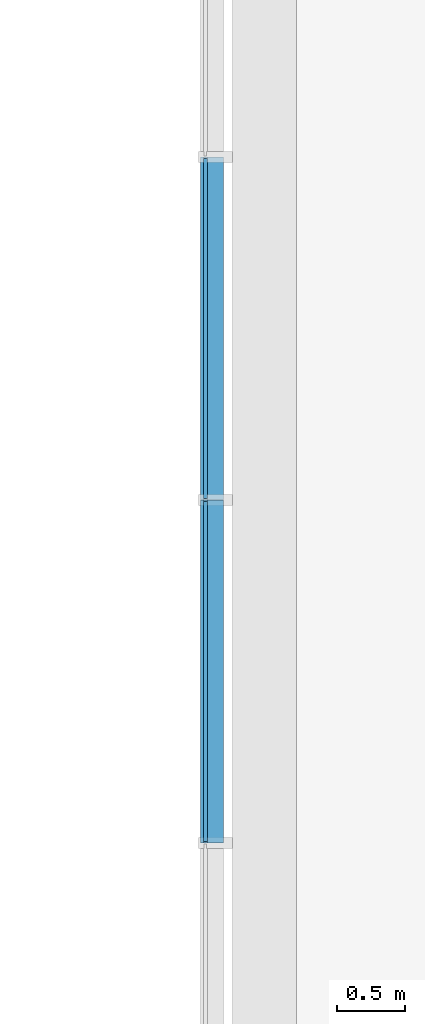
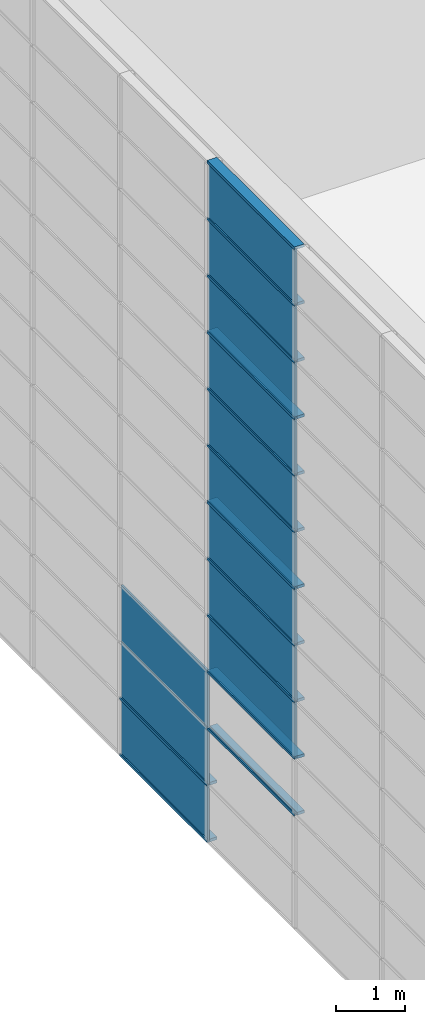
# One storey, part 34 of 105: 28 building element parts, 4 elements without a shape of their own.
"""IFC4 building model written with IfcOpenShell, lengths in millimetres."""

from ifc_helpers import new_model, entity, si_unit, converted_unit, derived_unit, direction, frame, origin_with_axes, place, context, subcontext, project, spatial, triangles, material, element, aggregate, save


model = new_model("IFC4")

# Units and contexts
model_context = context("Model", 3, precision=1e-05, world=origin_with_axes(), true_north=direction((0.0, 1.0)))
body_context = subcontext(model_context, "Body", "Model", "MODEL_VIEW")
ifc_project = project(units=[si_unit("LENGTHUNIT", "METRE", prefix="MILLI"), si_unit("AREAUNIT", "SQUARE_METRE"), si_unit("VOLUMEUNIT", "CUBIC_METRE"), converted_unit("PLANEANGLEUNIT", "DEGREE", entity("IfcLengthMeasure", 0.017453), si_unit("PLANEANGLEUNIT", "RADIAN"), dimensions=[0, 0, 0, 0, 0, 0, 0]), si_unit("SOLIDANGLEUNIT", "STERADIAN"), si_unit("MASSUNIT", "GRAM"), si_unit("TIMEUNIT", "SECOND"), si_unit("THERMODYNAMICTEMPERATUREUNIT", "DEGREE_CELSIUS"), si_unit("LUMINOUSINTENSITYUNIT", "LUMEN"), si_unit("POWERUNIT", "WATT"), derived_unit("THERMALTRANSMITTANCEUNIT", [(si_unit("POWERUNIT", "WATT"), 1), (si_unit("THERMODYNAMICTEMPERATUREUNIT", "KELVIN"), -1), (si_unit("AREAUNIT", "SQUARE_METRE"), -1)])], contexts=[model_context])

# Site, building, storey
site_placement = place(None, origin_with_axes())
site = spatial("IfcSite", under=ifc_project, at=site_placement, Name="Default Site", CompositionType="ELEMENT")
building_placement = place(site_placement, origin_with_axes())
building = spatial("IfcBuilding", under=site, at=building_placement, Name="Default Building", CompositionType="ELEMENT")
storey_placement = place(building_placement, origin_with_axes())
storey = spatial("IfcBuildingStorey", under=building, at=storey_placement, Name="OG - Story", CompositionType="ELEMENT", Elevation=0.0)

# Curtain wall, building element parts
curtain_wall_1_placement = place(storey_placement, origin_with_axes())
curtain_wall_1 = element("IfcCurtainWall", 1, at=curtain_wall_1_placement, inside=storey, Name="Fassade-003", PredefinedType="NOTDEFINED")
ifc_material_1 = material(Name="Normalglas")
building_element_part_1_placement = place(curtain_wall_1_placement, frame((31551.391327, -51326.104944, 0.0), z_axis=(0.0, 0.0, 1.0), x_axis=(1.0, 0.0, 0.0)))
building_element_part_1 = element("IfcBuildingElementPart", 2, at=building_element_part_1_placement, material=ifc_material_1, Name="Normalglas", PredefinedType="NOTDEFINED", context=body_context, shape_type="Tessellation", body=[
    triangles([(15.0, 39147.895, 995.0), (-14.999, 39147.895, 995.0), (-14.999, 36641.579, 995.0), (15.0, 36641.579, 995.0), (15.0, 39147.895, 5.0), (-14.999, 39147.895, 5.0), (-14.999, 36641.579, 5.0), (15.0, 36641.579, 5.0)], [[1, 2, 3], [1, 3, 4], [5, 6, 2], [5, 2, 1], [2, 6, 7], [2, 7, 3], [4, 3, 7], [4, 7, 8], [1, 4, 8], [1, 8, 5], [8, 7, 6], [8, 6, 5]], closed=False),
])
building_element_part_2_placement = place(curtain_wall_1_placement, frame((31551.391327, -51326.104944, 0.0), z_axis=(0.0, 0.0, 1.0), x_axis=(1.0, 0.0, 0.0)))
building_element_part_2 = element("IfcBuildingElementPart", 3, at=building_element_part_2_placement, material=ifc_material_1, Name="Normalglas", PredefinedType="NOTDEFINED", context=body_context, shape_type="Tessellation", body=[
    triangles([(15.0, 39147.895, 1995.0), (-14.999, 39147.895, 1995.0), (-14.999, 36641.579, 1995.0), (15.0, 36641.579, 1995.0), (15.0, 39147.895, 1005.0), (-14.999, 39147.895, 1005.0), (-14.999, 36641.579, 1005.0), (15.0, 36641.579, 1005.0)], [[1, 2, 3], [1, 3, 4], [5, 6, 2], [5, 2, 1], [2, 6, 7], [2, 7, 3], [4, 3, 7], [4, 7, 8], [1, 4, 8], [1, 8, 5], [8, 7, 6], [8, 6, 5]], closed=False),
])
building_element_part_3_placement = place(curtain_wall_1_placement, frame((31551.391327, -51326.104944, 0.0), z_axis=(0.0, 0.0, 1.0), x_axis=(1.0, 0.0, 0.0)))
building_element_part_3 = element("IfcBuildingElementPart", 4, at=building_element_part_3_placement, material=ifc_material_1, Name="Normalglas", PredefinedType="NOTDEFINED", context=body_context, shape_type="Tessellation", body=[
    triangles([(15.0, 39147.895, 2995.0), (-14.999, 39147.895, 2995.0), (-14.999, 36641.579, 2995.0), (15.0, 36641.579, 2995.0), (15.0, 39147.895, 2005.0), (-14.999, 39147.895, 2005.0), (-14.999, 36641.579, 2005.0), (15.0, 36641.579, 2005.0)], [[1, 2, 3], [1, 3, 4], [5, 6, 2], [5, 2, 1], [2, 6, 7], [2, 7, 3], [4, 3, 7], [4, 7, 8], [1, 4, 8], [1, 8, 5], [8, 7, 6], [8, 6, 5]], closed=False),
])
ifc_material_2 = material(Name="Blech")
building_element_part_4_placement = place(curtain_wall_1_placement, frame((31551.391327, -51326.104944, 0.0), z_axis=(0.0, 0.0, 1.0), x_axis=(1.0, 0.0, 0.0)))
building_element_part_4 = element("IfcBuildingElementPart", 5, at=building_element_part_4_placement, material=ifc_material_2, Name="Blech", PredefinedType="NOTDEFINED", context=body_context, shape_type="Tessellation", body=[
    triangles([(15.0, 39157.895, 25.0), (133.0, 39157.895, 25.0), (15.0, 39157.895, 5.0), (133.0, 39157.895, -24.999), (-14.999, 39157.895, 5.0), (-34.999, 39157.895, -24.999), (-34.999, 39157.895, 25.0), (-14.999, 39157.895, 25.0), (15.0, 36631.579, 5.0), (15.0, 36631.579, 25.0), (133.0, 36631.579, 25.0), (133.0, 36631.579, -24.999), (-34.999, 36631.579, -24.999), (-34.999, 36631.579, 25.0), (-14.999, 36631.579, 25.0), (-14.999, 36631.579, 5.0)], [[1, 2, 3], [3, 2, 4], [3, 4, 5], [5, 4, 6], [5, 6, 7], [5, 7, 8], [3, 9, 10], [3, 10, 1], [10, 11, 2], [10, 2, 1], [11, 12, 4], [11, 4, 2], [12, 13, 6], [12, 6, 4], [13, 14, 7], [13, 7, 6], [8, 7, 14], [8, 14, 15], [15, 16, 5], [15, 5, 8], [5, 16, 9], [5, 9, 3], [16, 9, 12], [16, 12, 13], [16, 13, 14], [16, 14, 15], [11, 12, 9], [11, 9, 10]], closed=False),
])
building_element_part_5_placement = place(curtain_wall_1_placement, frame((31551.391327, -51326.104944, 0.0), z_axis=(0.0, 0.0, 1.0), x_axis=(1.0, 0.0, 0.0)))
building_element_part_5 = element("IfcBuildingElementPart", 6, at=building_element_part_5_placement, material=ifc_material_2, Name="Blech", PredefinedType="NOTDEFINED", context=body_context, shape_type="Tessellation", body=[
    triangles([(-14.999, 39157.895, 1025.0), (-34.999, 39157.895, 1025.0), (-14.999, 39157.895, 1005.0), (-14.999, 39157.895, 995.0), (15.0, 39157.895, 1005.0), (133.0, 39157.895, 1025.0), (15.0, 39157.895, 1025.0), (-34.999, 39157.895, 975.0), (-14.999, 39157.895, 975.0), (15.0, 39157.895, 995.0), (15.0, 39157.895, 975.0), (133.0, 39157.895, 975.0), (15.0, 36631.579, 995.0), (-14.999, 36631.579, 995.0), (-14.999, 36631.579, 975.0), (-34.999, 36631.579, 975.0), (-34.999, 36631.579, 1025.0), (-14.999, 36631.579, 1025.0), (-14.999, 36631.579, 1005.0), (15.0, 36631.579, 1005.0), (15.0, 36631.579, 1025.0), (133.0, 36631.579, 1025.0), (133.0, 36631.579, 975.0), (15.0, 36631.579, 975.0)], [[1, 2, 3], [3, 2, 4], [3, 4, 5], [5, 4, 6], [5, 6, 7], [8, 9, 4], [8, 4, 2], [6, 4, 10], [6, 10, 11], [6, 11, 12], [10, 13, 14], [10, 14, 4], [4, 14, 15], [4, 15, 9], [15, 16, 8], [15, 8, 9], [8, 16, 17], [8, 17, 2], [18, 1, 2], [18, 2, 17], [1, 18, 19], [1, 19, 3], [5, 3, 19], [5, 19, 20], [7, 5, 20], [7, 20, 21], [7, 21, 22], [7, 22, 6], [6, 22, 23], [6, 23, 12], [11, 12, 23], [11, 23, 24], [11, 24, 13], [11, 13, 10], [21, 22, 20], [20, 22, 13], [20, 13, 19], [19, 13, 14], [19, 14, 17], [17, 14, 15], [17, 15, 16], [23, 24, 13], [23, 13, 22], [19, 17, 18]], closed=False),
])
building_element_part_6_placement = place(curtain_wall_1_placement, frame((31551.391327, -51326.104944, 0.0), z_axis=(0.0, 0.0, 1.0), x_axis=(1.0, 0.0, 0.0)))
building_element_part_6 = element("IfcBuildingElementPart", 7, at=building_element_part_6_placement, material=ifc_material_2, Name="Blech", PredefinedType="NOTDEFINED", context=body_context, shape_type="Tessellation", body=[
    triangles([(-14.999, 36631.579, 2025.0), (-34.999, 36631.579, 2025.0), (-14.999, 36631.579, 2005.0), (-14.999, 36631.579, 1995.0), (15.0, 36631.579, 2005.0), (133.0, 36631.579, 2025.0), (15.0, 36631.579, 2025.0), (-34.999, 36631.579, 1975.0), (-14.999, 36631.579, 1975.0), (15.0, 36631.579, 1995.0), (15.0, 36631.579, 1975.0), (133.0, 36631.579, 1975.0), (15.0, 34105.263, 1995.0), (-14.999, 34105.263, 1995.0), (-14.999, 34105.263, 1975.0), (-34.999, 34105.263, 1975.0), (-34.999, 34105.263, 2025.0), (-14.999, 34105.263, 2025.0), (-14.999, 34105.263, 2005.0), (15.0, 34105.263, 2005.0), (15.0, 34105.263, 2025.0), (133.0, 34105.263, 2025.0), (133.0, 34105.263, 1975.0), (15.0, 34105.263, 1975.0)], [[1, 2, 3], [3, 2, 4], [3, 4, 5], [5, 4, 6], [5, 6, 7], [8, 9, 4], [8, 4, 2], [6, 4, 10], [6, 10, 11], [6, 11, 12], [10, 13, 14], [10, 14, 4], [4, 14, 15], [4, 15, 9], [15, 16, 8], [15, 8, 9], [8, 16, 17], [8, 17, 2], [18, 1, 2], [18, 2, 17], [1, 18, 19], [1, 19, 3], [5, 3, 19], [5, 19, 20], [7, 5, 20], [7, 20, 21], [7, 21, 22], [7, 22, 6], [6, 22, 23], [6, 23, 12], [11, 12, 23], [11, 23, 24], [11, 24, 13], [11, 13, 10], [21, 22, 20], [20, 22, 13], [20, 13, 19], [19, 13, 14], [19, 14, 17], [17, 14, 15], [17, 15, 16], [23, 24, 13], [23, 13, 22], [19, 17, 18]], closed=False),
])
building_element_part_7_placement = place(curtain_wall_1_placement, frame((31551.391327, -51326.104944, 0.0), z_axis=(0.0, 0.0, 1.0), x_axis=(1.0, 0.0, 0.0)))
building_element_part_7 = element("IfcBuildingElementPart", 8, at=building_element_part_7_placement, material=ifc_material_2, Name="Blech", PredefinedType="NOTDEFINED", context=body_context, shape_type="Tessellation", body=[
    triangles([(-14.999, 36631.579, 2995.0), (15.0, 36631.579, 2995.0), (133.0, 36631.579, 3025.0), (-34.999, 36631.579, 3025.0), (-34.999, 36631.579, 2975.0), (-14.999, 36631.579, 2975.0), (15.0, 36631.579, 2975.0), (133.0, 36631.579, 2975.0), (15.0, 34105.263, 2995.0), (-14.999, 34105.263, 2995.0), (-14.999, 34105.263, 2975.0), (-34.999, 34105.263, 2975.0), (-34.999, 34105.263, 3025.0), (133.0, 34105.263, 3025.0), (133.0, 34105.263, 2975.0), (15.0, 34105.263, 2975.0)], [[1, 2, 3], [1, 3, 4], [1, 4, 5], [1, 5, 6], [7, 8, 3], [7, 3, 2], [1, 2, 9], [1, 9, 10], [11, 6, 1], [11, 1, 10], [6, 11, 12], [6, 12, 5], [13, 4, 5], [13, 5, 12], [14, 3, 4], [14, 4, 13], [15, 8, 3], [15, 3, 14], [16, 7, 8], [16, 8, 15], [2, 7, 16], [2, 16, 9], [10, 9, 14], [10, 14, 13], [10, 13, 12], [10, 12, 11], [16, 15, 14], [16, 14, 9]], closed=False),
])
aggregate(curtain_wall_1, [building_element_part_1, building_element_part_2, building_element_part_3, building_element_part_4, building_element_part_5, building_element_part_6, building_element_part_7])

curtain_wall_2_placement = place(storey_placement, origin_with_axes())
curtain_wall_2 = element("IfcCurtainWall", 9, at=curtain_wall_2_placement, inside=storey, Name="Fassade-003", PredefinedType="NOTDEFINED")
building_element_part_8_placement = place(curtain_wall_2_placement, frame((31551.391327, -51326.104944, 3000.0), z_axis=(0.0, 0.0, 1.0), x_axis=(1.0, 0.0, 0.0)))
building_element_part_8 = element("IfcBuildingElementPart", 10, at=building_element_part_8_placement, material=ifc_material_1, Name="Normalglas", PredefinedType="NOTDEFINED", context=body_context, shape_type="Tessellation", body=[
    triangles([(15.0, 36621.579, 995.0), (-14.999, 36621.579, 995.0), (-14.999, 34115.263, 995.0), (15.0, 34115.263, 995.0), (15.0, 36621.579, 5.0), (-14.999, 36621.579, 5.0), (-14.999, 34115.263, 5.0), (15.0, 34115.263, 5.0)], [[1, 2, 3], [1, 3, 4], [5, 6, 2], [5, 2, 1], [2, 6, 7], [2, 7, 3], [4, 3, 7], [4, 7, 8], [1, 4, 8], [1, 8, 5], [8, 7, 6], [8, 6, 5]], closed=False),
])
building_element_part_9_placement = place(curtain_wall_2_placement, frame((31551.391327, -51326.104944, 3000.0), z_axis=(0.0, 0.0, 1.0), x_axis=(1.0, 0.0, 0.0)))
building_element_part_9 = element("IfcBuildingElementPart", 11, at=building_element_part_9_placement, material=ifc_material_1, Name="Normalglas", PredefinedType="NOTDEFINED", context=body_context, shape_type="Tessellation", body=[
    triangles([(15.0, 36621.579, 1995.0), (-14.999, 36621.579, 1995.0), (-14.999, 34115.263, 1995.0), (15.0, 34115.263, 1995.0), (15.0, 36621.579, 1005.0), (-14.999, 36621.579, 1005.0), (-14.999, 34115.263, 1005.0), (15.0, 34115.263, 1005.0)], [[1, 2, 3], [1, 3, 4], [5, 6, 2], [5, 2, 1], [2, 6, 7], [2, 7, 3], [4, 3, 7], [4, 7, 8], [1, 4, 8], [1, 8, 5], [8, 7, 6], [8, 6, 5]], closed=False),
])
building_element_part_10_placement = place(curtain_wall_2_placement, frame((31551.391327, -51326.104944, 3000.0), z_axis=(0.0, 0.0, 1.0), x_axis=(1.0, 0.0, 0.0)))
building_element_part_10 = element("IfcBuildingElementPart", 12, at=building_element_part_10_placement, material=ifc_material_1, Name="Normalglas", PredefinedType="NOTDEFINED", context=body_context, shape_type="Tessellation", body=[
    triangles([(15.0, 36621.579, 2995.0), (-14.999, 36621.579, 2995.0), (-14.999, 34115.263, 2995.0), (15.0, 34115.263, 2995.0), (15.0, 36621.579, 2005.0), (-14.999, 36621.579, 2005.0), (-14.999, 34115.263, 2005.0), (15.0, 34115.263, 2005.0)], [[1, 2, 3], [1, 3, 4], [5, 6, 2], [5, 2, 1], [2, 6, 7], [2, 7, 3], [4, 3, 7], [4, 7, 8], [1, 4, 8], [1, 8, 5], [8, 7, 6], [8, 6, 5]], closed=False),
])
building_element_part_11_placement = place(curtain_wall_2_placement, frame((31551.391327, -51326.104944, 3000.0), z_axis=(0.0, 0.0, 1.0), x_axis=(1.0, 0.0, 0.0)))
building_element_part_11 = element("IfcBuildingElementPart", 13, at=building_element_part_11_placement, material=ifc_material_2, Name="Blech", PredefinedType="NOTDEFINED", context=body_context, shape_type="Tessellation", body=[
    triangles([(15.0, 36631.579, 25.0), (133.0, 36631.579, 25.0), (15.0, 36631.579, 5.0), (133.0, 36631.579, -24.999), (-14.999, 36631.579, 5.0), (-34.999, 36631.579, -24.999), (-34.999, 36631.579, 25.0), (-14.999, 36631.579, 25.0), (15.0, 34105.263, 5.0), (15.0, 34105.263, 25.0), (133.0, 34105.263, 25.0), (133.0, 34105.263, -24.999), (-34.999, 34105.263, -24.999), (-34.999, 34105.263, 25.0), (-14.999, 34105.263, 25.0), (-14.999, 34105.263, 5.0)], [[1, 2, 3], [3, 2, 4], [3, 4, 5], [5, 4, 6], [5, 6, 7], [5, 7, 8], [3, 9, 10], [3, 10, 1], [10, 11, 2], [10, 2, 1], [11, 12, 4], [11, 4, 2], [12, 13, 6], [12, 6, 4], [13, 14, 7], [13, 7, 6], [8, 7, 14], [8, 14, 15], [15, 16, 5], [15, 5, 8], [5, 16, 9], [5, 9, 3], [16, 9, 12], [16, 12, 13], [16, 13, 14], [16, 14, 15], [11, 12, 9], [11, 9, 10]], closed=False),
])
building_element_part_12_placement = place(curtain_wall_2_placement, frame((31551.391327, -51326.104944, 3000.0), z_axis=(0.0, 0.0, 1.0), x_axis=(1.0, 0.0, 0.0)))
building_element_part_12 = element("IfcBuildingElementPart", 14, at=building_element_part_12_placement, material=ifc_material_2, Name="Blech", PredefinedType="NOTDEFINED", context=body_context, shape_type="Tessellation", body=[
    triangles([(-14.999, 36631.579, 1025.0), (-34.999, 36631.579, 1025.0), (-14.999, 36631.579, 1005.0), (-14.999, 36631.579, 995.0), (15.0, 36631.579, 1005.0), (133.0, 36631.579, 1025.0), (15.0, 36631.579, 1025.0), (-34.999, 36631.579, 975.0), (-14.999, 36631.579, 975.0), (15.0, 36631.579, 995.0), (15.0, 36631.579, 975.0), (133.0, 36631.579, 975.0), (15.0, 34105.263, 995.0), (-14.999, 34105.263, 995.0), (-14.999, 34105.263, 975.0), (-34.999, 34105.263, 975.0), (-34.999, 34105.263, 1025.0), (-14.999, 34105.263, 1025.0), (-14.999, 34105.263, 1005.0), (15.0, 34105.263, 1005.0), (15.0, 34105.263, 1025.0), (133.0, 34105.263, 1025.0), (133.0, 34105.263, 975.0), (15.0, 34105.263, 975.0)], [[1, 2, 3], [3, 2, 4], [3, 4, 5], [5, 4, 6], [5, 6, 7], [8, 9, 4], [8, 4, 2], [6, 4, 10], [6, 10, 11], [6, 11, 12], [10, 13, 14], [10, 14, 4], [4, 14, 15], [4, 15, 9], [15, 16, 8], [15, 8, 9], [8, 16, 17], [8, 17, 2], [18, 1, 2], [18, 2, 17], [1, 18, 19], [1, 19, 3], [5, 3, 19], [5, 19, 20], [7, 5, 20], [7, 20, 21], [7, 21, 22], [7, 22, 6], [6, 22, 23], [6, 23, 12], [11, 12, 23], [11, 23, 24], [11, 24, 13], [11, 13, 10], [21, 22, 20], [20, 22, 13], [20, 13, 19], [19, 13, 14], [19, 14, 17], [17, 14, 15], [17, 15, 16], [23, 24, 13], [23, 13, 22], [19, 17, 18]], closed=False),
])
building_element_part_13_placement = place(curtain_wall_2_placement, frame((31551.391327, -51326.104944, 3000.0), z_axis=(0.0, 0.0, 1.0), x_axis=(1.0, 0.0, 0.0)))
building_element_part_13 = element("IfcBuildingElementPart", 15, at=building_element_part_13_placement, material=ifc_material_2, Name="Blech", PredefinedType="NOTDEFINED", context=body_context, shape_type="Tessellation", body=[
    triangles([(-14.999, 36631.579, 2025.0), (-34.999, 36631.579, 2025.0), (-14.999, 36631.579, 2005.0), (-14.999, 36631.579, 1995.0), (15.0, 36631.579, 2005.0), (133.0, 36631.579, 2025.0), (15.0, 36631.579, 2025.0), (-34.999, 36631.579, 1975.0), (-14.999, 36631.579, 1975.0), (15.0, 36631.579, 1995.0), (15.0, 36631.579, 1975.0), (133.0, 36631.579, 1975.0), (15.0, 34105.263, 1995.0), (-14.999, 34105.263, 1995.0), (-14.999, 34105.263, 1975.0), (-34.999, 34105.263, 1975.0), (-34.999, 34105.263, 2025.0), (-14.999, 34105.263, 2025.0), (-14.999, 34105.263, 2005.0), (15.0, 34105.263, 2005.0), (15.0, 34105.263, 2025.0), (133.0, 34105.263, 2025.0), (133.0, 34105.263, 1975.0), (15.0, 34105.263, 1975.0)], [[1, 2, 3], [3, 2, 4], [3, 4, 5], [5, 4, 6], [5, 6, 7], [8, 9, 4], [8, 4, 2], [6, 4, 10], [6, 10, 11], [6, 11, 12], [10, 13, 14], [10, 14, 4], [4, 14, 15], [4, 15, 9], [15, 16, 8], [15, 8, 9], [8, 16, 17], [8, 17, 2], [18, 1, 2], [18, 2, 17], [1, 18, 19], [1, 19, 3], [5, 3, 19], [5, 19, 20], [7, 5, 20], [7, 20, 21], [7, 21, 22], [7, 22, 6], [6, 22, 23], [6, 23, 12], [11, 12, 23], [11, 23, 24], [11, 24, 13], [11, 13, 10], [21, 22, 20], [20, 22, 13], [20, 13, 19], [19, 13, 14], [19, 14, 17], [17, 14, 15], [17, 15, 16], [23, 24, 13], [23, 13, 22], [19, 17, 18]], closed=False),
])
building_element_part_14_placement = place(curtain_wall_2_placement, frame((31551.391327, -51326.104944, 3000.0), z_axis=(0.0, 0.0, 1.0), x_axis=(1.0, 0.0, 0.0)))
building_element_part_14 = element("IfcBuildingElementPart", 16, at=building_element_part_14_placement, material=ifc_material_2, Name="Blech", PredefinedType="NOTDEFINED", context=body_context, shape_type="Tessellation", body=[
    triangles([(-14.999, 36631.579, 2995.0), (15.0, 36631.579, 2995.0), (133.0, 36631.579, 3025.0), (-34.999, 36631.579, 3025.0), (-34.999, 36631.579, 2975.0), (-14.999, 36631.579, 2975.0), (15.0, 36631.579, 2975.0), (133.0, 36631.579, 2975.0), (15.0, 34105.263, 2995.0), (-14.999, 34105.263, 2995.0), (-14.999, 34105.263, 2975.0), (-34.999, 34105.263, 2975.0), (-34.999, 34105.263, 3025.0), (133.0, 34105.263, 3025.0), (133.0, 34105.263, 2975.0), (15.0, 34105.263, 2975.0)], [[1, 2, 3], [1, 3, 4], [1, 4, 5], [1, 5, 6], [7, 8, 3], [7, 3, 2], [1, 2, 9], [1, 9, 10], [11, 6, 1], [11, 1, 10], [6, 11, 12], [6, 12, 5], [13, 4, 5], [13, 5, 12], [14, 3, 4], [14, 4, 13], [15, 8, 3], [15, 3, 14], [16, 7, 8], [16, 8, 15], [2, 7, 16], [2, 16, 9], [10, 9, 14], [10, 14, 13], [10, 13, 12], [10, 12, 11], [16, 15, 14], [16, 14, 9]], closed=False),
])
aggregate(curtain_wall_2, [building_element_part_8, building_element_part_9, building_element_part_10, building_element_part_11, building_element_part_12, building_element_part_13, building_element_part_14])

curtain_wall_3_placement = place(storey_placement, origin_with_axes())
curtain_wall_3 = element("IfcCurtainWall", 17, at=curtain_wall_3_placement, inside=storey, Name="Fassade-003", PredefinedType="NOTDEFINED")
building_element_part_15_placement = place(curtain_wall_3_placement, frame((31551.391327, -51326.104944, 6000.0), z_axis=(0.0, 0.0, 1.0), x_axis=(1.0, 0.0, 0.0)))
building_element_part_15 = element("IfcBuildingElementPart", 18, at=building_element_part_15_placement, material=ifc_material_1, Name="Normalglas", PredefinedType="NOTDEFINED", context=body_context, shape_type="Tessellation", body=[
    triangles([(15.0, 36621.579, 995.0), (-14.999, 36621.579, 995.0), (-14.999, 34115.263, 995.0), (15.0, 34115.263, 995.0), (15.0, 36621.579, 5.0), (-14.999, 36621.579, 5.0), (-14.999, 34115.263, 5.0), (15.0, 34115.263, 5.0)], [[1, 2, 3], [1, 3, 4], [5, 6, 2], [5, 2, 1], [2, 6, 7], [2, 7, 3], [4, 3, 7], [4, 7, 8], [1, 4, 8], [1, 8, 5], [8, 7, 6], [8, 6, 5]], closed=False),
])
building_element_part_16_placement = place(curtain_wall_3_placement, frame((31551.391327, -51326.104944, 6000.0), z_axis=(0.0, 0.0, 1.0), x_axis=(1.0, 0.0, 0.0)))
building_element_part_16 = element("IfcBuildingElementPart", 19, at=building_element_part_16_placement, material=ifc_material_1, Name="Normalglas", PredefinedType="NOTDEFINED", context=body_context, shape_type="Tessellation", body=[
    triangles([(15.0, 36621.579, 1995.0), (-14.999, 36621.579, 1995.0), (-14.999, 34115.263, 1995.0), (15.0, 34115.263, 1995.0), (15.0, 36621.579, 1005.0), (-14.999, 36621.579, 1005.0), (-14.999, 34115.263, 1005.0), (15.0, 34115.263, 1005.0)], [[1, 2, 3], [1, 3, 4], [5, 6, 2], [5, 2, 1], [2, 6, 7], [2, 7, 3], [4, 3, 7], [4, 7, 8], [1, 4, 8], [1, 8, 5], [8, 7, 6], [8, 6, 5]], closed=False),
])
building_element_part_17_placement = place(curtain_wall_3_placement, frame((31551.391327, -51326.104944, 6000.0), z_axis=(0.0, 0.0, 1.0), x_axis=(1.0, 0.0, 0.0)))
building_element_part_17 = element("IfcBuildingElementPart", 20, at=building_element_part_17_placement, material=ifc_material_1, Name="Normalglas", PredefinedType="NOTDEFINED", context=body_context, shape_type="Tessellation", body=[
    triangles([(15.0, 36621.579, 2995.0), (-14.999, 36621.579, 2995.0), (-14.999, 34115.263, 2995.0), (15.0, 34115.263, 2995.0), (15.0, 36621.579, 2005.0), (-14.999, 36621.579, 2005.0), (-14.999, 34115.263, 2005.0), (15.0, 34115.263, 2005.0)], [[1, 2, 3], [1, 3, 4], [5, 6, 2], [5, 2, 1], [2, 6, 7], [2, 7, 3], [4, 3, 7], [4, 7, 8], [1, 4, 8], [1, 8, 5], [8, 7, 6], [8, 6, 5]], closed=False),
])
building_element_part_18_placement = place(curtain_wall_3_placement, frame((31551.391327, -51326.104944, 6000.0), z_axis=(0.0, 0.0, 1.0), x_axis=(1.0, 0.0, 0.0)))
building_element_part_18 = element("IfcBuildingElementPart", 21, at=building_element_part_18_placement, material=ifc_material_2, Name="Blech", PredefinedType="NOTDEFINED", context=body_context, shape_type="Tessellation", body=[
    triangles([(15.0, 36631.579, 25.0), (133.0, 36631.579, 25.0), (15.0, 36631.579, 5.0), (133.0, 36631.579, -24.999), (-14.999, 36631.579, 5.0), (-34.999, 36631.579, -24.999), (-34.999, 36631.579, 25.0), (-14.999, 36631.579, 25.0), (15.0, 34105.263, 5.0), (15.0, 34105.263, 25.0), (133.0, 34105.263, 25.0), (133.0, 34105.263, -24.999), (-34.999, 34105.263, -24.999), (-34.999, 34105.263, 25.0), (-14.999, 34105.263, 25.0), (-14.999, 34105.263, 5.0)], [[1, 2, 3], [3, 2, 4], [3, 4, 5], [5, 4, 6], [5, 6, 7], [5, 7, 8], [3, 9, 10], [3, 10, 1], [10, 11, 2], [10, 2, 1], [11, 12, 4], [11, 4, 2], [12, 13, 6], [12, 6, 4], [13, 14, 7], [13, 7, 6], [8, 7, 14], [8, 14, 15], [15, 16, 5], [15, 5, 8], [5, 16, 9], [5, 9, 3], [16, 9, 12], [16, 12, 13], [16, 13, 14], [16, 14, 15], [11, 12, 9], [11, 9, 10]], closed=False),
])
building_element_part_19_placement = place(curtain_wall_3_placement, frame((31551.391327, -51326.104944, 6000.0), z_axis=(0.0, 0.0, 1.0), x_axis=(1.0, 0.0, 0.0)))
building_element_part_19 = element("IfcBuildingElementPart", 22, at=building_element_part_19_placement, material=ifc_material_2, Name="Blech", PredefinedType="NOTDEFINED", context=body_context, shape_type="Tessellation", body=[
    triangles([(-14.999, 36631.579, 1025.0), (-34.999, 36631.579, 1025.0), (-14.999, 36631.579, 1005.0), (-14.999, 36631.579, 995.0), (15.0, 36631.579, 1005.0), (133.0, 36631.579, 1025.0), (15.0, 36631.579, 1025.0), (-34.999, 36631.579, 975.0), (-14.999, 36631.579, 975.0), (15.0, 36631.579, 995.0), (15.0, 36631.579, 975.0), (133.0, 36631.579, 975.0), (15.0, 34105.263, 995.0), (-14.999, 34105.263, 995.0), (-14.999, 34105.263, 975.0), (-34.999, 34105.263, 975.0), (-34.999, 34105.263, 1025.0), (-14.999, 34105.263, 1025.0), (-14.999, 34105.263, 1005.0), (15.0, 34105.263, 1005.0), (15.0, 34105.263, 1025.0), (133.0, 34105.263, 1025.0), (133.0, 34105.263, 975.0), (15.0, 34105.263, 975.0)], [[1, 2, 3], [3, 2, 4], [3, 4, 5], [5, 4, 6], [5, 6, 7], [8, 9, 4], [8, 4, 2], [6, 4, 10], [6, 10, 11], [6, 11, 12], [10, 13, 14], [10, 14, 4], [4, 14, 15], [4, 15, 9], [15, 16, 8], [15, 8, 9], [8, 16, 17], [8, 17, 2], [18, 1, 2], [18, 2, 17], [1, 18, 19], [1, 19, 3], [5, 3, 19], [5, 19, 20], [7, 5, 20], [7, 20, 21], [7, 21, 22], [7, 22, 6], [6, 22, 23], [6, 23, 12], [11, 12, 23], [11, 23, 24], [11, 24, 13], [11, 13, 10], [21, 22, 20], [20, 22, 13], [20, 13, 19], [19, 13, 14], [19, 14, 17], [17, 14, 15], [17, 15, 16], [23, 24, 13], [23, 13, 22], [19, 17, 18]], closed=False),
])
building_element_part_20_placement = place(curtain_wall_3_placement, frame((31551.391327, -51326.104944, 6000.0), z_axis=(0.0, 0.0, 1.0), x_axis=(1.0, 0.0, 0.0)))
building_element_part_20 = element("IfcBuildingElementPart", 23, at=building_element_part_20_placement, material=ifc_material_2, Name="Blech", PredefinedType="NOTDEFINED", context=body_context, shape_type="Tessellation", body=[
    triangles([(-14.999, 36631.579, 2025.0), (-34.999, 36631.579, 2025.0), (-14.999, 36631.579, 2005.0), (-14.999, 36631.579, 1995.0), (15.0, 36631.579, 2005.0), (133.0, 36631.579, 2025.0), (15.0, 36631.579, 2025.0), (-34.999, 36631.579, 1975.0), (-14.999, 36631.579, 1975.0), (15.0, 36631.579, 1995.0), (15.0, 36631.579, 1975.0), (133.0, 36631.579, 1975.0), (15.0, 34105.263, 1995.0), (-14.999, 34105.263, 1995.0), (-14.999, 34105.263, 1975.0), (-34.999, 34105.263, 1975.0), (-34.999, 34105.263, 2025.0), (-14.999, 34105.263, 2025.0), (-14.999, 34105.263, 2005.0), (15.0, 34105.263, 2005.0), (15.0, 34105.263, 2025.0), (133.0, 34105.263, 2025.0), (133.0, 34105.263, 1975.0), (15.0, 34105.263, 1975.0)], [[1, 2, 3], [3, 2, 4], [3, 4, 5], [5, 4, 6], [5, 6, 7], [8, 9, 4], [8, 4, 2], [6, 4, 10], [6, 10, 11], [6, 11, 12], [10, 13, 14], [10, 14, 4], [4, 14, 15], [4, 15, 9], [15, 16, 8], [15, 8, 9], [8, 16, 17], [8, 17, 2], [18, 1, 2], [18, 2, 17], [1, 18, 19], [1, 19, 3], [5, 3, 19], [5, 19, 20], [7, 5, 20], [7, 20, 21], [7, 21, 22], [7, 22, 6], [6, 22, 23], [6, 23, 12], [11, 12, 23], [11, 23, 24], [11, 24, 13], [11, 13, 10], [21, 22, 20], [20, 22, 13], [20, 13, 19], [19, 13, 14], [19, 14, 17], [17, 14, 15], [17, 15, 16], [23, 24, 13], [23, 13, 22], [19, 17, 18]], closed=False),
])
building_element_part_21_placement = place(curtain_wall_3_placement, frame((31551.391327, -51326.104944, 6000.0), z_axis=(0.0, 0.0, 1.0), x_axis=(1.0, 0.0, 0.0)))
building_element_part_21 = element("IfcBuildingElementPart", 24, at=building_element_part_21_placement, material=ifc_material_2, Name="Blech", PredefinedType="NOTDEFINED", context=body_context, shape_type="Tessellation", body=[
    triangles([(-14.999, 36631.579, 2995.0), (15.0, 36631.579, 2995.0), (133.0, 36631.579, 3025.0), (-34.999, 36631.579, 3025.0), (-34.999, 36631.579, 2975.0), (-14.999, 36631.579, 2975.0), (15.0, 36631.579, 2975.0), (133.0, 36631.579, 2975.0), (15.0, 34105.263, 2995.0), (-14.999, 34105.263, 2995.0), (-14.999, 34105.263, 2975.0), (-34.999, 34105.263, 2975.0), (-34.999, 34105.263, 3025.0), (133.0, 34105.263, 3025.0), (133.0, 34105.263, 2975.0), (15.0, 34105.263, 2975.0)], [[1, 2, 3], [1, 3, 4], [1, 4, 5], [1, 5, 6], [7, 8, 3], [7, 3, 2], [1, 2, 9], [1, 9, 10], [11, 6, 1], [11, 1, 10], [6, 11, 12], [6, 12, 5], [13, 4, 5], [13, 5, 12], [14, 3, 4], [14, 4, 13], [15, 8, 3], [15, 3, 14], [16, 7, 8], [16, 8, 15], [2, 7, 16], [2, 16, 9], [10, 9, 14], [10, 14, 13], [10, 13, 12], [10, 12, 11], [16, 15, 14], [16, 14, 9]], closed=False),
])
aggregate(curtain_wall_3, [building_element_part_15, building_element_part_16, building_element_part_17, building_element_part_18, building_element_part_19, building_element_part_20, building_element_part_21])

curtain_wall_4_placement = place(storey_placement, origin_with_axes())
curtain_wall_4 = element("IfcCurtainWall", 25, at=curtain_wall_4_placement, inside=storey, Name="Fassade-003", PredefinedType="NOTDEFINED")
building_element_part_22_placement = place(curtain_wall_4_placement, frame((31551.391327, -51326.104944, 9000.0), z_axis=(0.0, 0.0, 1.0), x_axis=(1.0, 0.0, 0.0)))
building_element_part_22 = element("IfcBuildingElementPart", 26, at=building_element_part_22_placement, material=ifc_material_1, Name="Normalglas", PredefinedType="NOTDEFINED", context=body_context, shape_type="Tessellation", body=[
    triangles([(15.0, 36621.579, 995.0), (-14.999, 36621.579, 995.0), (-14.999, 34115.263, 995.0), (15.0, 34115.263, 995.0), (15.0, 36621.579, 5.0), (-14.999, 36621.579, 5.0), (-14.999, 34115.263, 5.0), (15.0, 34115.263, 5.0)], [[1, 2, 3], [1, 3, 4], [5, 6, 2], [5, 2, 1], [2, 6, 7], [2, 7, 3], [4, 3, 7], [4, 7, 8], [1, 4, 8], [1, 8, 5], [8, 7, 6], [8, 6, 5]], closed=False),
])
building_element_part_23_placement = place(curtain_wall_4_placement, frame((31551.391327, -51326.104944, 9000.0), z_axis=(0.0, 0.0, 1.0), x_axis=(1.0, 0.0, 0.0)))
building_element_part_23 = element("IfcBuildingElementPart", 27, at=building_element_part_23_placement, material=ifc_material_1, Name="Normalglas", PredefinedType="NOTDEFINED", context=body_context, shape_type="Tessellation", body=[
    triangles([(15.0, 36621.579, 1995.0), (-14.999, 36621.579, 1995.0), (-14.999, 34115.263, 1995.0), (15.0, 34115.263, 1995.0), (15.0, 36621.579, 1005.0), (-14.999, 36621.579, 1005.0), (-14.999, 34115.263, 1005.0), (15.0, 34115.263, 1005.0)], [[1, 2, 3], [1, 3, 4], [5, 6, 2], [5, 2, 1], [2, 6, 7], [2, 7, 3], [4, 3, 7], [4, 7, 8], [1, 4, 8], [1, 8, 5], [8, 7, 6], [8, 6, 5]], closed=False),
])
building_element_part_24_placement = place(curtain_wall_4_placement, frame((31551.391327, -51326.104944, 9000.0), z_axis=(0.0, 0.0, 1.0), x_axis=(1.0, 0.0, 0.0)))
building_element_part_24 = element("IfcBuildingElementPart", 28, at=building_element_part_24_placement, material=ifc_material_1, Name="Normalglas", PredefinedType="NOTDEFINED", context=body_context, shape_type="Tessellation", body=[
    triangles([(15.0, 36621.579, 2995.0), (-14.999, 36621.579, 2995.0), (-14.999, 34115.263, 2995.0), (15.0, 34115.263, 2995.0), (15.0, 36621.579, 2005.0), (-14.999, 36621.579, 2005.0), (-14.999, 34115.263, 2005.0), (15.0, 34115.263, 2005.0)], [[1, 2, 3], [1, 3, 4], [5, 6, 2], [5, 2, 1], [2, 6, 7], [2, 7, 3], [4, 3, 7], [4, 7, 8], [1, 4, 8], [1, 8, 5], [8, 7, 6], [8, 6, 5]], closed=False),
])
building_element_part_25_placement = place(curtain_wall_4_placement, frame((31551.391327, -51326.104944, 9000.0), z_axis=(0.0, 0.0, 1.0), x_axis=(1.0, 0.0, 0.0)))
building_element_part_25 = element("IfcBuildingElementPart", 29, at=building_element_part_25_placement, material=ifc_material_2, Name="Blech", PredefinedType="NOTDEFINED", context=body_context, shape_type="Tessellation", body=[
    triangles([(15.0, 36631.579, 25.0), (133.0, 36631.579, 25.0), (15.0, 36631.579, 5.0), (133.0, 36631.579, -24.999), (-14.999, 36631.579, 5.0), (-34.999, 36631.579, -24.999), (-34.999, 36631.579, 25.0), (-14.999, 36631.579, 25.0), (15.0, 34105.263, 5.0), (15.0, 34105.263, 25.0), (133.0, 34105.263, 25.0), (133.0, 34105.263, -24.999), (-34.999, 34105.263, -24.999), (-34.999, 34105.263, 25.0), (-14.999, 34105.263, 25.0), (-14.999, 34105.263, 5.0)], [[1, 2, 3], [3, 2, 4], [3, 4, 5], [5, 4, 6], [5, 6, 7], [5, 7, 8], [3, 9, 10], [3, 10, 1], [10, 11, 2], [10, 2, 1], [11, 12, 4], [11, 4, 2], [12, 13, 6], [12, 6, 4], [13, 14, 7], [13, 7, 6], [8, 7, 14], [8, 14, 15], [15, 16, 5], [15, 5, 8], [5, 16, 9], [5, 9, 3], [16, 9, 12], [16, 12, 13], [16, 13, 14], [16, 14, 15], [11, 12, 9], [11, 9, 10]], closed=False),
])
building_element_part_26_placement = place(curtain_wall_4_placement, frame((31551.391327, -51326.104944, 9000.0), z_axis=(0.0, 0.0, 1.0), x_axis=(1.0, 0.0, 0.0)))
building_element_part_26 = element("IfcBuildingElementPart", 30, at=building_element_part_26_placement, material=ifc_material_2, Name="Blech", PredefinedType="NOTDEFINED", context=body_context, shape_type="Tessellation", body=[
    triangles([(-14.999, 36631.579, 1025.0), (-34.999, 36631.579, 1025.0), (-14.999, 36631.579, 1005.0), (-14.999, 36631.579, 995.0), (15.0, 36631.579, 1005.0), (133.0, 36631.579, 1025.0), (15.0, 36631.579, 1025.0), (-34.999, 36631.579, 975.0), (-14.999, 36631.579, 975.0), (15.0, 36631.579, 995.0), (15.0, 36631.579, 975.0), (133.0, 36631.579, 975.0), (15.0, 34105.263, 995.0), (-14.999, 34105.263, 995.0), (-14.999, 34105.263, 975.0), (-34.999, 34105.263, 975.0), (-34.999, 34105.263, 1025.0), (-14.999, 34105.263, 1025.0), (-14.999, 34105.263, 1005.0), (15.0, 34105.263, 1005.0), (15.0, 34105.263, 1025.0), (133.0, 34105.263, 1025.0), (133.0, 34105.263, 975.0), (15.0, 34105.263, 975.0)], [[1, 2, 3], [3, 2, 4], [3, 4, 5], [5, 4, 6], [5, 6, 7], [8, 9, 4], [8, 4, 2], [6, 4, 10], [6, 10, 11], [6, 11, 12], [10, 13, 14], [10, 14, 4], [4, 14, 15], [4, 15, 9], [15, 16, 8], [15, 8, 9], [8, 16, 17], [8, 17, 2], [18, 1, 2], [18, 2, 17], [1, 18, 19], [1, 19, 3], [5, 3, 19], [5, 19, 20], [7, 5, 20], [7, 20, 21], [7, 21, 22], [7, 22, 6], [6, 22, 23], [6, 23, 12], [11, 12, 23], [11, 23, 24], [11, 24, 13], [11, 13, 10], [21, 22, 20], [20, 22, 13], [20, 13, 19], [19, 13, 14], [19, 14, 17], [17, 14, 15], [17, 15, 16], [23, 24, 13], [23, 13, 22], [19, 17, 18]], closed=False),
])
building_element_part_27_placement = place(curtain_wall_4_placement, frame((31551.391327, -51326.104944, 9000.0), z_axis=(0.0, 0.0, 1.0), x_axis=(1.0, 0.0, 0.0)))
building_element_part_27 = element("IfcBuildingElementPart", 31, at=building_element_part_27_placement, material=ifc_material_2, Name="Blech", PredefinedType="NOTDEFINED", context=body_context, shape_type="Tessellation", body=[
    triangles([(-14.999, 36631.579, 2025.0), (-34.999, 36631.579, 2025.0), (-14.999, 36631.579, 2005.0), (-14.999, 36631.579, 1995.0), (15.0, 36631.579, 2005.0), (133.0, 36631.579, 2025.0), (15.0, 36631.579, 2025.0), (-34.999, 36631.579, 1975.0), (-14.999, 36631.579, 1975.0), (15.0, 36631.579, 1995.0), (15.0, 36631.579, 1975.0), (133.0, 36631.579, 1975.0), (15.0, 34105.263, 1995.0), (-14.999, 34105.263, 1995.0), (-14.999, 34105.263, 1975.0), (-34.999, 34105.263, 1975.0), (-34.999, 34105.263, 2025.0), (-14.999, 34105.263, 2025.0), (-14.999, 34105.263, 2005.0), (15.0, 34105.263, 2005.0), (15.0, 34105.263, 2025.0), (133.0, 34105.263, 2025.0), (133.0, 34105.263, 1975.0), (15.0, 34105.263, 1975.0)], [[1, 2, 3], [3, 2, 4], [3, 4, 5], [5, 4, 6], [5, 6, 7], [8, 9, 4], [8, 4, 2], [6, 4, 10], [6, 10, 11], [6, 11, 12], [10, 13, 14], [10, 14, 4], [4, 14, 15], [4, 15, 9], [15, 16, 8], [15, 8, 9], [8, 16, 17], [8, 17, 2], [18, 1, 2], [18, 2, 17], [1, 18, 19], [1, 19, 3], [5, 3, 19], [5, 19, 20], [7, 5, 20], [7, 20, 21], [7, 21, 22], [7, 22, 6], [6, 22, 23], [6, 23, 12], [11, 12, 23], [11, 23, 24], [11, 24, 13], [11, 13, 10], [21, 22, 20], [20, 22, 13], [20, 13, 19], [19, 13, 14], [19, 14, 17], [17, 14, 15], [17, 15, 16], [23, 24, 13], [23, 13, 22], [19, 17, 18]], closed=False),
])
building_element_part_28_placement = place(curtain_wall_4_placement, frame((31551.391327, -51326.104944, 9000.0), z_axis=(0.0, 0.0, 1.0), x_axis=(1.0, 0.0, 0.0)))
building_element_part_28 = element("IfcBuildingElementPart", 32, at=building_element_part_28_placement, material=ifc_material_2, Name="Blech", PredefinedType="NOTDEFINED", context=body_context, shape_type="Tessellation", body=[
    triangles([(-14.999, 36631.579, 2995.0), (15.0, 36631.579, 2995.0), (133.0, 36631.579, 3025.0), (-34.999, 36631.579, 3025.0), (-34.999, 36631.579, 2975.0), (-14.999, 36631.579, 2975.0), (15.0, 36631.579, 2975.0), (133.0, 36631.579, 2975.0), (15.0, 34105.263, 2995.0), (-14.999, 34105.263, 2995.0), (-14.999, 34105.263, 2975.0), (-34.999, 34105.263, 2975.0), (-34.999, 34105.263, 3025.0), (133.0, 34105.263, 3025.0), (133.0, 34105.263, 2975.0), (15.0, 34105.263, 2975.0)], [[1, 2, 3], [1, 3, 4], [1, 4, 5], [1, 5, 6], [7, 8, 3], [7, 3, 2], [1, 2, 9], [1, 9, 10], [11, 6, 1], [11, 1, 10], [6, 11, 12], [6, 12, 5], [13, 4, 5], [13, 5, 12], [14, 3, 4], [14, 4, 13], [15, 8, 3], [15, 3, 14], [16, 7, 8], [16, 8, 15], [2, 7, 16], [2, 16, 9], [10, 9, 14], [10, 14, 13], [10, 13, 12], [10, 12, 11], [16, 15, 14], [16, 14, 9]], closed=False),
])
aggregate(curtain_wall_4, [building_element_part_22, building_element_part_23, building_element_part_24, building_element_part_25, building_element_part_26, building_element_part_27, building_element_part_28])

save(model, "model.ifc")
